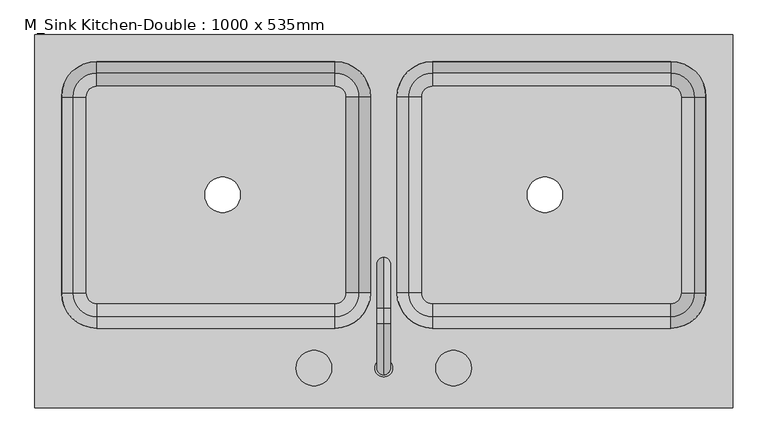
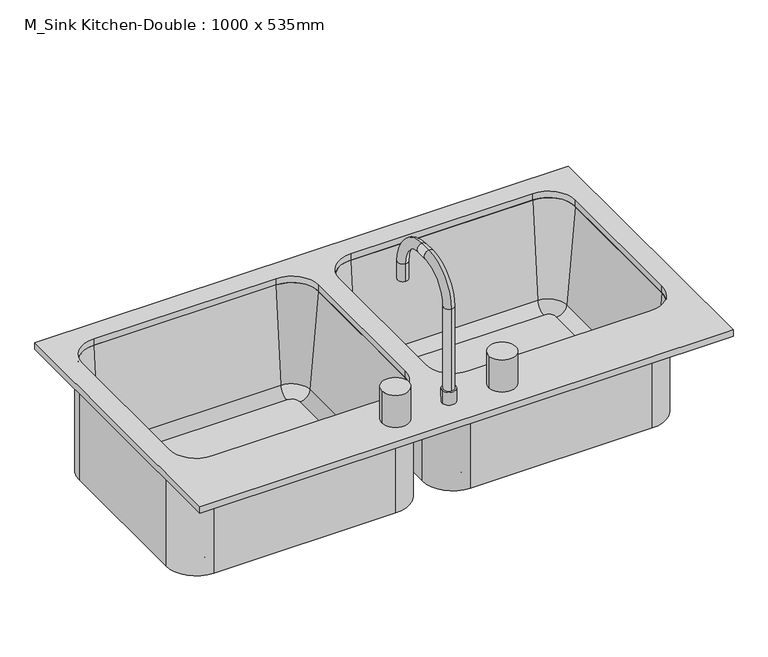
"""IFC4 building model written with IfcOpenShell, lengths in millimetres: flow terminal geometry, M_Sink Kitchen-Double : 1000 x 535mm."""

from ifc_helpers import new_model, si_unit, point, frame, frame_2d, origin, place, context, project, spatial, polyline, circle_curve, ellipse_curve, trimmed, segment, composite_curve, outline, extrude, source, transform, mapped, element, save
from ifc_brep_helpers import plane_surface, cylinder_surface, revolved_surface, advanced_brep


def m_sink_kitchen_double_1000_x_535mm_0441a45c(model_context):
    return source(origin(), model_context, "Body", "SolidModel", [
        advanced_brep(
        [(426.7892406, -120.0338193, 693.625), (442.0776588, -104.7454011, 693.625), (442.0776588, 176.2545989, 693.625), (426.7892406, 191.5430171, 693.625), (85.5392406, 191.5430171, 693.625), (70.2508224, 176.2545989, 693.625), (70.2508224, -104.7454011, 693.625), (85.5392406, -120.0338193, 693.625), (221.2392406, 35.7545989, 693.625), (272.0392406, 35.7545989, 693.625), (28.3892406, -104.7454011, 684.1), (28.3892406, 176.2545989, 684.1), (85.5392406, 233.4045989, 684.1), (426.7892406, 233.4045989, 684.1), (483.9392406, 176.2545989, 684.1), (483.9392406, -104.7454011, 684.1), (426.7892406, -161.8954011, 684.1), (85.5392406, -161.8954011, 684.1), (221.2392406, 35.7545989, 684.1), (272.0392406, 35.7545989, 684.1), (34.7392406, -104.7454011, 900.0), (28.3892406, -104.7454011, 900.0), (85.5392406, -161.8954011, 900.0), (85.5392406, -155.5454011, 900.0), (85.5392406, -139.0113283, 711.0146831), (51.2733134, -104.7454011, 711.0146831), (34.7392406, 176.2545989, 900.0), (28.3892406, 176.2545989, 900.0), (51.2733134, 176.2545989, 711.0146831), (85.5392406, 227.0545989, 900.0), (85.5392406, 233.4045989, 900.0), (85.5392406, 210.5205261, 711.0146831), (426.7892406, 227.0545989, 900.0), (426.7892406, 233.4045989, 900.0), (426.7892406, 210.5205261, 711.0146831), (477.5892406, 176.2545989, 900.0), (483.9392406, 176.2545989, 900.0), (461.0551678, 176.2545989, 711.0146831), (477.5892406, -104.7454011, 900.0), (483.9392406, -104.7454011, 900.0), (461.0551678, -104.7454011, 711.0146831), (426.7892406, -155.5454011, 900.0), (426.7892406, -161.8954011, 900.0), (426.7892406, -139.0113283, 711.0146831)],
        [
            (0, 1, circle_curve(frame((426.7892406, -104.7454011, 693.625), z_axis=(0.0, 0.0, 1.0), x_axis=(1.0, 0.0, 0.0)), 15.2884182)),
            (1, 2),
            (2, 3, circle_curve(frame((426.7892406, 176.2545989, 693.625), z_axis=(0.0, 0.0, 1.0), x_axis=(0.0, 1.0, 0.0)), 15.2884182)),
            (3, 4),
            (4, 5, circle_curve(frame((85.5392406, 176.2545989, 693.625), z_axis=(0.0, 0.0, 1.0), x_axis=(-1.0, 0.0, 0.0)), 15.2884182)),
            (5, 6),
            (6, 7, circle_curve(frame((85.5392406, -104.7454011, 693.625), z_axis=(0.0, 0.0, 1.0), x_axis=(0.0, -1.0, 0.0)), 15.2884182)),
            (7, 0),
            (8, 9, circle_curve(frame((246.6392406, 35.7545989, 693.625), z_axis=(0.0, 0.0, -1.0), x_axis=(1.0, 0.0, 0.0)), 25.4)),
            (9, 8, circle_curve(frame((246.6392406, 35.7545989, 693.625), z_axis=(0.0, 0.0, -1.0), x_axis=(1.0, 0.0, 0.0)), 25.4)),
            (10, 11),
            (11, 12, circle_curve(frame((85.5392406, 176.2545989, 684.1), z_axis=(0.0, 0.0, -1.0), x_axis=(-1.0, 0.0, 0.0)), 57.15)),
            (12, 13),
            (13, 14, circle_curve(frame((426.7892406, 176.2545989, 684.1), z_axis=(0.0, 0.0, -1.0), x_axis=(0.0, 1.0, 0.0)), 57.15)),
            (14, 15),
            (15, 16, circle_curve(frame((426.7892406, -104.7454011, 684.1), z_axis=(0.0, 0.0, -1.0), x_axis=(1.0, 0.0, 0.0)), 57.15)),
            (16, 17),
            (17, 10, circle_curve(frame((85.5392406, -104.7454011, 684.1), z_axis=(0.0, 0.0, -1.0), x_axis=(0.0, -1.0, 0.0)), 57.15)),
            (18, 19, circle_curve(frame((246.6392406, 35.7545989, 684.1), z_axis=(0.0, 0.0, 1.0), x_axis=(1.0, 0.0, 0.0)), 25.4)),
            (19, 18, circle_curve(frame((246.6392406, 35.7545989, 684.1), z_axis=(0.0, 0.0, 1.0), x_axis=(1.0, 0.0, 0.0)), 25.4)),
            (9, 19),
            (18, 8),
            (20, 21),
            (21, 22, circle_curve(frame((85.5392406, -104.7454011, 900.0), z_axis=(0.0, 0.0, 1.0), x_axis=(0.0, -1.0, 0.0)), 57.15)),
            (22, 23),
            (23, 20, circle_curve(frame((85.5392406, -104.7454011, 900.0), z_axis=(0.0, 0.0, -1.0), x_axis=(0.0, -1.0, 0.0)), 50.8)),
            (23, 24),
            (24, 25, circle_curve(frame((85.5392406, -104.7454011, 711.0146831), z_axis=(0.0, 0.0, -1.0), x_axis=(0.0, -1.0, 0.0)), 34.2659272)),
            (25, 20),
            (24, 7, circle_curve(frame((85.5392406, -120.0338193, 712.675), z_axis=(1.0, 0.0, 0.0), x_axis=(0.0, 1.0, 0.0)), 19.05)),
            (6, 25, circle_curve(frame((70.2508224, -104.7454011, 712.675), z_axis=(0.0, 1.0, 0.0), x_axis=(1.0, 0.0, 0.0)), 19.05)),
            (21, 10),
            (17, 22),
            (20, 26),
            (26, 27),
            (27, 21),
            (25, 28),
            (28, 26),
            (5, 28, circle_curve(frame((70.2508224, 176.2545989, 712.675), z_axis=(0.0, 1.0, 0.0), x_axis=(1.0, 0.0, 0.0)), 19.05)),
            (27, 11),
            (26, 29, circle_curve(frame((85.5392406, 176.2545989, 900.0), z_axis=(0.0, 0.0, -1.0), x_axis=(-1.0, 0.0, 0.0)), 50.8)),
            (29, 30),
            (30, 27, circle_curve(frame((85.5392406, 176.2545989, 900.0), z_axis=(0.0, 0.0, 1.0), x_axis=(-1.0, 0.0, 0.0)), 57.15)),
            (28, 31, circle_curve(frame((85.5392406, 176.2545989, 711.0146831), z_axis=(0.0, 0.0, -1.0), x_axis=(-1.0, 0.0, 0.0)), 34.2659272)),
            (31, 29),
            (4, 31, circle_curve(frame((85.5392406, 191.5430171, 712.675), z_axis=(1.0, 0.0, 0.0), x_axis=(0.0, -1.0, 0.0)), 19.05)),
            (30, 12),
            (29, 32),
            (32, 33),
            (33, 30),
            (31, 34),
            (34, 32),
            (3, 34, circle_curve(frame((426.7892406, 191.5430171, 712.675), z_axis=(1.0, 0.0, 0.0), x_axis=(0.0, -1.0, 0.0)), 19.05)),
            (33, 13),
            (32, 35, circle_curve(frame((426.7892406, 176.2545989, 900.0), z_axis=(0.0, 0.0, -1.0), x_axis=(0.0, 1.0, 0.0)), 50.8)),
            (35, 36),
            (36, 33, circle_curve(frame((426.7892406, 176.2545989, 900.0), z_axis=(0.0, 0.0, 1.0), x_axis=(0.0, 1.0, 0.0)), 57.15)),
            (34, 37, circle_curve(frame((426.7892406, 176.2545989, 711.0146831), z_axis=(0.0, 0.0, -1.0), x_axis=(0.0, 1.0, 0.0)), 34.2659272)),
            (37, 35),
            (2, 37, circle_curve(frame((442.0776588, 176.2545989, 712.675), z_axis=(0.0, -1.0, 0.0), x_axis=(-1.0, 0.0, 0.0)), 19.05)),
            (36, 14),
            (35, 38),
            (38, 39),
            (39, 36),
            (37, 40),
            (40, 38),
            (1, 40, circle_curve(frame((442.0776588, -104.7454011, 712.675), z_axis=(0.0, -1.0, 0.0), x_axis=(-1.0, 0.0, 0.0)), 19.05)),
            (39, 15),
            (38, 41, circle_curve(frame((426.7892406, -104.7454011, 900.0), z_axis=(0.0, 0.0, -1.0), x_axis=(1.0, 0.0, 0.0)), 50.8)),
            (41, 42),
            (42, 39, circle_curve(frame((426.7892406, -104.7454011, 900.0), z_axis=(0.0, 0.0, 1.0), x_axis=(1.0, 0.0, 0.0)), 57.15)),
            (40, 43, circle_curve(frame((426.7892406, -104.7454011, 711.0146831), z_axis=(0.0, 0.0, -1.0), x_axis=(1.0, 0.0, 0.0)), 34.2659272)),
            (43, 41),
            (0, 43, circle_curve(frame((426.7892406, -120.0338193, 712.675), z_axis=(-1.0, 0.0, 0.0), x_axis=(0.0, 1.0, 0.0)), 19.05)),
            (42, 16),
            (22, 42),
            (41, 23),
            (43, 24),
        ],
        [
            plane_surface(frame((85.5392406, -120.0338193, 693.625), z_axis=(0.0, 0.0, 1.0), x_axis=(-1.0, 0.0, 0.0))),
            plane_surface(frame((85.5392406, -120.0338193, 684.1), z_axis=(0.0, 0.0, -1.0), x_axis=(1.0, 0.0, 0.0))),
            revolved_surface(polyline([(272.03924059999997, 35.7545989, 684.1), (272.03924059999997, 35.7545989, 693.625)]), (246.6392406, 35.7545989, 0.0), (0.0, 0.0, -1.0)),
            plane_surface(frame((85.5392406, -104.7454011, 900.0), z_axis=(0.0, 0.0, 1.0), x_axis=(0.0, -1.0, 0.0))),
            revolved_surface(polyline([(85.5392406, -155.5454011, 900.0), (85.5392406, -139.0113283, 711.0146831)]), (85.5392406, -104.7454011, 0.0), (0.0, 0.0, 1.0)),
            revolved_surface(trimmed(ellipse_curve(frame((85.5392406, -120.0338193, 712.675), z_axis=(1.0, 0.0, 0.0), x_axis=(0.0, 1.0, 0.0)), 19.05, 19.05), [point((85.5392406, -139.0113283, 711.0146831))], [point((85.5392406, -120.0338193, 693.625))], True, "CARTESIAN"), (85.5392406, -104.7454011, 0.0), (0.0, 0.0, 1.0)),
            cylinder_surface(frame((85.5392406, -104.7454011, 0.0), z_axis=(0.0, 0.0, 1.0), x_axis=(0.0, -1.0, 0.0)), 57.15),
            plane_surface(frame((28.3892406, -104.7454011, 900.0), z_axis=(0.0, 0.0, 1.0), x_axis=(0.0, 1.0, 0.0))),
            plane_surface(frame((34.7392406, -104.7454011, 900.0), z_axis=(0.996194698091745, 0.0, 0.08715574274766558), x_axis=(0.0, 1.0, 0.0))),
            revolved_surface(polyline([(89.3008224, 176.25459890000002, 712.675), (89.3008224, -104.7454011, 712.675)]), (70.2508224, -104.7454011, 712.675), (0.0, 1.0, 0.0)),
            plane_surface(frame((28.3892406, -104.7454011, 684.1), z_axis=(-1.0, 0.0, 0.0), x_axis=(0.0, 1.0, 0.0))),
            plane_surface(frame((85.5392406, 176.2545989, 900.0), z_axis=(0.0, 0.0, 1.0), x_axis=(-1.0, 0.0, 0.0))),
            revolved_surface(polyline([(34.7392406, 176.2545989, 900.0), (51.2733134, 176.2545989, 711.0146831)]), (85.5392406, 176.2545989, 0.0), (0.0, 0.0, 1.0)),
            revolved_surface(trimmed(ellipse_curve(frame((70.2508224, 176.2545989, 712.675), z_axis=(0.0, -1.0, 0.0), x_axis=(1.0, 0.0, 0.0)), 19.05, 19.05), [point((51.2733134, 176.2545989, 711.0146831))], [point((70.2508224, 176.2545989, 693.625))], True, "CARTESIAN"), (85.5392406, 176.2545989, 0.0), (0.0, 0.0, 1.0)),
            cylinder_surface(frame((85.5392406, 176.2545989, 0.0), z_axis=(0.0, 0.0, 1.0), x_axis=(-1.0, 0.0, 0.0)), 57.15),
            plane_surface(frame((85.5392406, 233.4045989, 900.0), z_axis=(0.0, 0.0, 1.0), x_axis=(1.0, 0.0, 0.0))),
            plane_surface(frame((85.5392406, 227.0545989, 900.0), z_axis=(0.0, -0.996194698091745, 0.08715574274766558), x_axis=(1.0, 0.0, 0.0))),
            revolved_surface(polyline([(426.78924059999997, 172.49301709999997, 712.675), (85.5392406, 172.49301709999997, 712.675)]), (85.5392406, 191.5430171, 712.675), (1.0, 0.0, 0.0)),
            plane_surface(frame((85.5392406, 233.4045989, 684.1), z_axis=(0.0, 1.0, 0.0), x_axis=(1.0, 0.0, 0.0))),
            plane_surface(frame((426.7892406, 176.2545989, 900.0), z_axis=(0.0, 0.0, 1.0), x_axis=(0.0, 1.0, 0.0))),
            revolved_surface(polyline([(426.7892406, 227.0545989, 900.0), (426.7892406, 210.5205261, 711.0146831)]), (426.7892406, 176.2545989, 0.0), (0.0, 0.0, 1.0)),
            revolved_surface(trimmed(ellipse_curve(frame((426.7892406, 191.5430171, 712.675), z_axis=(-1.0, 0.0, 0.0), x_axis=(0.0, -1.0, 0.0)), 19.05, 19.05), [point((426.7892406, 210.5205261, 711.0146831))], [point((426.7892406, 191.5430171, 693.625))], True, "CARTESIAN"), (426.7892406, 176.2545989, 0.0), (0.0, 0.0, 1.0)),
            cylinder_surface(frame((426.7892406, 176.2545989, 0.0), z_axis=(0.0, 0.0, 1.0), x_axis=(0.0, 1.0, 0.0)), 57.15),
            plane_surface(frame((483.9392406, 176.2545989, 900.0), z_axis=(0.0, 0.0, 1.0), x_axis=(0.0, -1.0, 0.0))),
            plane_surface(frame((477.5892406, 176.2545989, 900.0), z_axis=(-0.996194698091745, 0.0, 0.08715574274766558), x_axis=(0.0, -1.0, 0.0))),
            revolved_surface(polyline([(423.0276588, -104.74540110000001, 712.675), (423.0276588, 176.2545989, 712.675)]), (442.0776588, 176.2545989, 712.675), (0.0, -1.0, 0.0)),
            plane_surface(frame((483.9392406, 176.2545989, 684.1), z_axis=(1.0, 0.0, 0.0), x_axis=(0.0, -1.0, 0.0))),
            plane_surface(frame((426.7892406, -104.7454011, 900.0), z_axis=(0.0, 0.0, 1.0), x_axis=(1.0, 0.0, 0.0))),
            revolved_surface(polyline([(477.5892406, -104.7454011, 900.0), (461.0551678, -104.7454011, 711.0146831)]), (426.7892406, -104.7454011, 0.0), (0.0, 0.0, 1.0)),
            revolved_surface(trimmed(ellipse_curve(frame((442.0776588, -104.7454011, 712.675), z_axis=(0.0, 1.0, 0.0), x_axis=(-1.0, 0.0, 0.0)), 19.05, 19.05), [point((461.0551678, -104.7454011, 711.0146831))], [point((442.0776588, -104.7454011, 693.625))], True, "CARTESIAN"), (426.7892406, -104.7454011, 0.0), (0.0, 0.0, 1.0)),
            cylinder_surface(frame((426.7892406, -104.7454011, 0.0), z_axis=(0.0, 0.0, 1.0), x_axis=(1.0, 0.0, 0.0)), 57.15),
            plane_surface(frame((426.7892406, -161.8954011, 900.0), z_axis=(0.0, 0.0, 1.0), x_axis=(-1.0, 0.0, 0.0))),
            plane_surface(frame((426.7892406, -155.5454011, 900.0), z_axis=(0.0, 0.996194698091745, 0.08715574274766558), x_axis=(-1.0, 0.0, 0.0))),
            revolved_surface(polyline([(85.53924060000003, -100.98381930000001, 712.675), (426.7892406, -100.98381930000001, 712.675)]), (426.7892406, -120.0338193, 712.675), (-1.0, 0.0, 0.0)),
            plane_surface(frame((426.7892406, -161.8954011, 684.1), z_axis=(0.0, -1.0, 0.0), x_axis=(-1.0, 0.0, 0.0))),
        ],
        [
            (0, [[1, 2, 3, 4, 5, 6, 7, 8], [9, 10]]),
            (1, [[11, 12, 13, 14, 15, 16, 17, 18], [19, 20]]),
            (2, [[21, -19, 22, -10]]),
            (2, [[-22, -20, -21, -9]]),
            (3, [[23, 24, 25, 26]]),
            (4, [[27, 28, 29, -26]]),
            (5, [[30, -7, 31, -28]]),
            (6, [[32, -18, 33, -24]]),
            (7, [[34, 35, 36, -23]]),
            (8, [[37, 38, -34, -29]]),
            (9, [[-6, 39, -37, -31]]),
            (10, [[-36, 40, -11, -32]]),
            (11, [[41, 42, 43, -35]]),
            (12, [[44, 45, -41, -38]]),
            (13, [[-5, 46, -44, -39]]),
            (14, [[-43, 47, -12, -40]]),
            (15, [[48, 49, 50, -42]]),
            (16, [[51, 52, -48, -45]]),
            (17, [[-4, 53, -51, -46]]),
            (18, [[-50, 54, -13, -47]]),
            (19, [[55, 56, 57, -49]]),
            (20, [[58, 59, -55, -52]]),
            (21, [[-3, 60, -58, -53]]),
            (22, [[-57, 61, -14, -54]]),
            (23, [[62, 63, 64, -56]]),
            (24, [[65, 66, -62, -59]]),
            (25, [[-2, 67, -65, -60]]),
            (26, [[-64, 68, -15, -61]]),
            (27, [[69, 70, 71, -63]]),
            (28, [[72, 73, -69, -66]]),
            (29, [[-1, 74, -72, -67]]),
            (30, [[-71, 75, -16, -68]]),
            (31, [[76, -70, 77, -25]]),
            (32, [[-77, -73, 78, -27]]),
            (33, [[-78, -74, -8, -30]]),
            (34, [[-17, -75, -76, -33]]),
        ],
    ),
        advanced_brep(
        [(-38.8723412, -104.7454011, 693.625), (-38.8723412, 176.2545989, 693.625), (-54.1607594, 191.5430171, 693.625), (-395.4107594, 191.5430171, 693.625), (-410.6991776, 176.2545989, 693.625), (-410.6991776, -104.7454011, 693.625), (-395.4107594, -120.0338193, 693.625), (-54.1607594, -120.0338193, 693.625), (-240.6607594, 35.7545989, 693.625), (-189.8607594, 35.7545989, 693.625), (-452.5607594, -104.7454011, 684.1), (-452.5607594, 176.2545989, 684.1), (-395.4107594, 233.4045989, 684.1), (-54.1607594, 233.4045989, 684.1), (2.9892406, 176.2545989, 684.1), (2.9892406, -104.7454011, 684.1), (-54.1607594, -161.8954011, 684.1), (-395.4107594, -161.8954011, 684.1), (-240.6607594, 35.7545989, 684.1), (-189.8607594, 35.7545989, 684.1), (2.9892406, -104.7454011, 900.0), (-54.1607594, -161.8954011, 900.0), (-54.1607594, -139.0113283, 711.0146831), (-19.8948322, -104.7454011, 711.0146831), (-54.1607594, -155.5454011, 900.0), (-3.3607594, -104.7454011, 900.0), (2.9892406, 176.2545989, 900.0), (-19.8948322, 176.2545989, 711.0146831), (-3.3607594, 176.2545989, 900.0), (-54.1607594, 233.4045989, 900.0), (-54.1607594, 210.5205261, 711.0146831), (-54.1607594, 227.0545989, 900.0), (-395.4107594, 233.4045989, 900.0), (-395.4107594, 210.5205261, 711.0146831), (-395.4107594, 227.0545989, 900.0), (-452.5607594, 176.2545989, 900.0), (-429.6766866, 176.2545989, 711.0146831), (-446.2107594, 176.2545989, 900.0), (-452.5607594, -104.7454011, 900.0), (-429.6766866, -104.7454011, 711.0146831), (-446.2107594, -104.7454011, 900.0), (-395.4107594, -161.8954011, 900.0), (-395.4107594, -139.0113283, 711.0146831), (-395.4107594, -155.5454011, 900.0)],
        [
            (0, 1),
            (1, 2, circle_curve(frame((-54.1607594, 176.2545989, 693.625), z_axis=(0.0, 0.0, 1.0), x_axis=(1.0, 0.0, 0.0)), 15.2884182)),
            (2, 3),
            (3, 4, circle_curve(frame((-395.4107594, 176.2545989, 693.625), z_axis=(0.0, 0.0, 1.0), x_axis=(0.0, 1.0, 0.0)), 15.2884182)),
            (4, 5),
            (5, 6, circle_curve(frame((-395.4107594, -104.7454011, 693.625), z_axis=(0.0, 0.0, 1.0), x_axis=(-1.0, 0.0, 0.0)), 15.2884182)),
            (6, 7),
            (7, 0, circle_curve(frame((-54.1607594, -104.7454011, 693.625), z_axis=(0.0, 0.0, 1.0), x_axis=(0.0, -1.0, 0.0)), 15.2884182)),
            (8, 9, circle_curve(frame((-215.2607594, 35.7545989, 693.625), z_axis=(0.0, 0.0, -1.0), x_axis=(1.0, 0.0, 0.0)), 25.4)),
            (9, 8, circle_curve(frame((-215.2607594, 35.7545989, 693.625), z_axis=(0.0, 0.0, -1.0), x_axis=(1.0, 0.0, 0.0)), 25.4)),
            (10, 11),
            (11, 12, circle_curve(frame((-395.4107594, 176.2545989, 684.1), z_axis=(0.0, 0.0, -1.0), x_axis=(0.0, 1.0, 0.0)), 57.15)),
            (12, 13),
            (13, 14, circle_curve(frame((-54.1607594, 176.2545989, 684.1), z_axis=(0.0, 0.0, -1.0), x_axis=(1.0, 0.0, 0.0)), 57.15)),
            (14, 15),
            (15, 16, circle_curve(frame((-54.1607594, -104.7454011, 684.1), z_axis=(0.0, 0.0, -1.0), x_axis=(0.0, -1.0, 0.0)), 57.15)),
            (16, 17),
            (17, 10, circle_curve(frame((-395.4107594, -104.7454011, 684.1), z_axis=(0.0, 0.0, -1.0), x_axis=(-1.0, 0.0, 0.0)), 57.15)),
            (18, 19, circle_curve(frame((-215.2607594, 35.7545989, 684.1), z_axis=(0.0, 0.0, 1.0), x_axis=(1.0, 0.0, 0.0)), 25.4)),
            (19, 18, circle_curve(frame((-215.2607594, 35.7545989, 684.1), z_axis=(0.0, 0.0, 1.0), x_axis=(1.0, 0.0, 0.0)), 25.4)),
            (9, 19),
            (18, 8),
            (15, 20),
            (20, 21, circle_curve(frame((-54.1607594, -104.7454011, 900.0), z_axis=(0.0, 0.0, -1.0), x_axis=(0.0, -1.0, 0.0)), 57.15)),
            (21, 16),
            (7, 22, circle_curve(frame((-54.1607594, -120.0338193, 712.675), z_axis=(-1.0, 0.0, 0.0), x_axis=(0.0, -1.0, 0.0)), 19.05)),
            (22, 23, circle_curve(frame((-54.1607594, -104.7454011, 711.0146831), z_axis=(0.0, 0.0, 1.0), x_axis=(0.0, -1.0, 0.0)), 34.2659272)),
            (23, 0, circle_curve(frame((-38.8723412, -104.7454011, 712.675), z_axis=(0.0, 1.0, 0.0), x_axis=(1.0, 0.0, 0.0)), 19.05)),
            (22, 24),
            (24, 25, circle_curve(frame((-54.1607594, -104.7454011, 900.0), z_axis=(0.0, 0.0, 1.0), x_axis=(0.0, -1.0, 0.0)), 50.8)),
            (25, 23),
            (20, 25),
            (24, 21),
            (14, 26),
            (26, 20),
            (23, 27),
            (27, 1, circle_curve(frame((-38.8723412, 176.2545989, 712.675), z_axis=(0.0, 1.0, 0.0), x_axis=(1.0, 0.0, 0.0)), 19.05)),
            (25, 28),
            (28, 27),
            (26, 28),
            (13, 29),
            (29, 26, circle_curve(frame((-54.1607594, 176.2545989, 900.0), z_axis=(0.0, 0.0, -1.0), x_axis=(1.0, 0.0, 0.0)), 57.15)),
            (27, 30, circle_curve(frame((-54.1607594, 176.2545989, 711.0146831), z_axis=(0.0, 0.0, 1.0), x_axis=(1.0, 0.0, 0.0)), 34.2659272)),
            (30, 2, circle_curve(frame((-54.1607594, 191.5430171, 712.675), z_axis=(-1.0, 0.0, 0.0), x_axis=(0.0, 1.0, 0.0)), 19.05)),
            (28, 31, circle_curve(frame((-54.1607594, 176.2545989, 900.0), z_axis=(0.0, 0.0, 1.0), x_axis=(1.0, 0.0, 0.0)), 50.8)),
            (31, 30),
            (29, 31),
            (12, 32),
            (32, 29),
            (30, 33),
            (33, 3, circle_curve(frame((-395.4107594, 191.5430171, 712.675), z_axis=(-1.0, 0.0, 0.0), x_axis=(0.0, 1.0, 0.0)), 19.05)),
            (31, 34),
            (34, 33),
            (32, 34),
            (11, 35),
            (35, 32, circle_curve(frame((-395.4107594, 176.2545989, 900.0), z_axis=(0.0, 0.0, -1.0), x_axis=(0.0, 1.0, 0.0)), 57.15)),
            (33, 36, circle_curve(frame((-395.4107594, 176.2545989, 711.0146831), z_axis=(0.0, 0.0, 1.0), x_axis=(0.0, 1.0, 0.0)), 34.2659272)),
            (36, 4, circle_curve(frame((-410.6991776, 176.2545989, 712.675), z_axis=(0.0, -1.0, 0.0), x_axis=(-1.0, 0.0, 0.0)), 19.05)),
            (34, 37, circle_curve(frame((-395.4107594, 176.2545989, 900.0), z_axis=(0.0, 0.0, 1.0), x_axis=(0.0, 1.0, 0.0)), 50.8)),
            (37, 36),
            (35, 37),
            (10, 38),
            (38, 35),
            (36, 39),
            (39, 5, circle_curve(frame((-410.6991776, -104.7454011, 712.675), z_axis=(0.0, -1.0, 0.0), x_axis=(-1.0, 0.0, 0.0)), 19.05)),
            (37, 40),
            (40, 39),
            (38, 40),
            (17, 41),
            (41, 38, circle_curve(frame((-395.4107594, -104.7454011, 900.0), z_axis=(0.0, 0.0, -1.0), x_axis=(-1.0, 0.0, 0.0)), 57.15)),
            (39, 42, circle_curve(frame((-395.4107594, -104.7454011, 711.0146831), z_axis=(0.0, 0.0, 1.0), x_axis=(-1.0, 0.0, 0.0)), 34.2659272)),
            (42, 6, circle_curve(frame((-395.4107594, -120.0338193, 712.675), z_axis=(1.0, 0.0, 0.0), x_axis=(0.0, -1.0, 0.0)), 19.05)),
            (40, 43, circle_curve(frame((-395.4107594, -104.7454011, 900.0), z_axis=(0.0, 0.0, 1.0), x_axis=(-1.0, 0.0, 0.0)), 50.8)),
            (43, 42),
            (41, 43),
            (21, 41),
            (42, 22),
            (43, 24),
        ],
        [
            plane_surface(frame((-395.4107594, -117.4454011, 693.625), z_axis=(0.0, 0.0, 1.0), x_axis=(-1.0, 0.0, 0.0))),
            plane_surface(frame((-395.4107594, -117.4454011, 684.1), z_axis=(0.0, 0.0, -1.0), x_axis=(1.0, 0.0, 0.0))),
            revolved_surface(polyline([(-189.8607594, 35.7545989, 684.1), (-189.8607594, 35.7545989, 693.625)]), (-215.2607594, 35.7545989, 0.0), (0.0, 0.0, -1.0)),
            cylinder_surface(frame((-54.1607594, -104.7454011, 0.0), z_axis=(0.0, 0.0, -1.0), x_axis=(0.0, -1.0, 0.0)), 57.15),
            revolved_surface(trimmed(ellipse_curve(frame((-54.1607594, -120.0338193, 712.675), z_axis=(-1.0, 0.0, 0.0), x_axis=(0.0, -1.0, 0.0)), 19.05, 19.05), [point((-54.1607594, -120.0338193, 693.625))], [point((-54.1607594, -139.0113283, 711.0146831))], True, "CARTESIAN"), (-54.1607594, -104.7454011, 0.0), (0.0, 0.0, -1.0)),
            revolved_surface(polyline([(-54.1607594, -139.0113283, 711.0146831), (-54.1607594, -155.5454011, 900.0)]), (-54.1607594, -104.7454011, 0.0), (0.0, 0.0, -1.0)),
            plane_surface(frame((-54.1607594, -104.7454011, 900.0), z_axis=(0.0, 0.0, 1.0), x_axis=(0.0, -1.0, 0.0))),
            plane_surface(frame((2.9892406, -104.7454011, 900.0), z_axis=(1.0, 0.0, 0.0), x_axis=(0.0, 1.0, 0.0))),
            revolved_surface(polyline([(-19.8223412, 176.25459890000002, 712.675), (-19.8223412, -104.7454011, 712.675)]), (-38.8723412, -104.7454011, 712.675), (0.0, 1.0, 0.0)),
            plane_surface(frame((-19.8948322, -104.7454011, 711.0146831), z_axis=(-0.9961946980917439, 0.0, 0.08715574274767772), x_axis=(0.0, 1.0, 0.0))),
            plane_surface(frame((-3.3607594, -104.7454011, 900.0), z_axis=(0.0, 0.0, 1.0), x_axis=(0.0, 1.0, 0.0))),
            cylinder_surface(frame((-54.1607594, 176.2545989, 0.0), z_axis=(0.0, 0.0, -1.0), x_axis=(1.0, 0.0, 0.0)), 57.15),
            revolved_surface(trimmed(ellipse_curve(frame((-38.8723412, 176.2545989, 712.675), z_axis=(0.0, -1.0, 0.0), x_axis=(1.0, 0.0, 0.0)), 19.05, 19.05), [point((-38.8723412, 176.2545989, 693.625))], [point((-19.8948322, 176.2545989, 711.0146831))], True, "CARTESIAN"), (-54.1607594, 176.2545989, 0.0), (0.0, 0.0, -1.0)),
            revolved_surface(polyline([(-19.8948322, 176.2545989, 711.0146831), (-3.3607594, 176.2545989, 900.0)]), (-54.1607594, 176.2545989, 0.0), (0.0, 0.0, -1.0)),
            plane_surface(frame((-54.1607594, 176.2545989, 900.0), z_axis=(0.0, 0.0, 1.0), x_axis=(1.0, 0.0, 0.0))),
            plane_surface(frame((-54.1607594, 233.4045989, 900.0), z_axis=(0.0, 1.0, 0.0), x_axis=(-1.0, 0.0, 0.0))),
            revolved_surface(polyline([(-395.4107594, 210.5930171, 712.675), (-54.1607594, 210.5930171, 712.675)]), (-54.1607594, 191.5430171, 712.675), (-1.0, 0.0, 0.0)),
            plane_surface(frame((-54.1607594, 210.5205261, 711.0146831), z_axis=(0.0, -0.9961946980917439, 0.08715574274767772), x_axis=(-1.0, 0.0, 0.0))),
            plane_surface(frame((-54.1607594, 227.0545989, 900.0), z_axis=(0.0, 0.0, 1.0), x_axis=(-1.0, 0.0, 0.0))),
            cylinder_surface(frame((-395.4107594, 176.2545989, 0.0), z_axis=(0.0, 0.0, -1.0), x_axis=(0.0, 1.0, 0.0)), 57.15),
            revolved_surface(trimmed(ellipse_curve(frame((-395.4107594, 191.5430171, 712.675), z_axis=(1.0, 0.0, 0.0), x_axis=(0.0, 1.0, 0.0)), 19.05, 19.05), [point((-395.4107594, 191.5430171, 693.625))], [point((-395.4107594, 210.5205261, 711.0146831))], True, "CARTESIAN"), (-395.4107594, 176.2545989, 0.0), (0.0, 0.0, -1.0)),
            revolved_surface(polyline([(-395.4107594, 210.5205261, 711.0146831), (-395.4107594, 227.0545989, 900.0)]), (-395.4107594, 176.2545989, 0.0), (0.0, 0.0, -1.0)),
            plane_surface(frame((-395.4107594, 176.2545989, 900.0), z_axis=(0.0, 0.0, 1.0), x_axis=(0.0, 1.0, 0.0))),
            plane_surface(frame((-452.5607594, 176.2545989, 900.0), z_axis=(-1.0, 0.0, 0.0), x_axis=(0.0, -1.0, 0.0))),
            revolved_surface(polyline([(-429.7491776, -104.74540110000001, 712.675), (-429.7491776, 176.2545989, 712.675)]), (-410.6991776, 176.2545989, 712.675), (0.0, -1.0, 0.0)),
            plane_surface(frame((-429.6766866, 176.2545989, 711.0146831), z_axis=(0.9961946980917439, 0.0, 0.08715574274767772), x_axis=(0.0, -1.0, 0.0))),
            plane_surface(frame((-446.2107594, 176.2545989, 900.0), z_axis=(0.0, 0.0, 1.0), x_axis=(0.0, -1.0, 0.0))),
            cylinder_surface(frame((-395.4107594, -104.7454011, 0.0), z_axis=(0.0, 0.0, -1.0), x_axis=(-1.0, 0.0, 0.0)), 57.15),
            revolved_surface(trimmed(ellipse_curve(frame((-410.6991776, -104.7454011, 712.675), z_axis=(0.0, 1.0, 0.0), x_axis=(-1.0, 0.0, 0.0)), 19.05, 19.05), [point((-410.6991776, -104.7454011, 693.625))], [point((-429.6766866, -104.7454011, 711.0146831))], True, "CARTESIAN"), (-395.4107594, -104.7454011, 0.0), (0.0, 0.0, -1.0)),
            revolved_surface(polyline([(-429.6766866, -104.7454011, 711.0146831), (-446.2107594, -104.7454011, 900.0)]), (-395.4107594, -104.7454011, 0.0), (0.0, 0.0, -1.0)),
            plane_surface(frame((-395.4107594, -104.7454011, 900.0), z_axis=(0.0, 0.0, 1.0), x_axis=(-1.0, 0.0, 0.0))),
            plane_surface(frame((-395.4107594, -161.8954011, 900.0), z_axis=(0.0, -1.0, 0.0), x_axis=(1.0, 0.0, 0.0))),
            revolved_surface(polyline([(-54.16075940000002, -139.08381930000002, 712.675), (-395.4107594, -139.08381930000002, 712.675)]), (-395.4107594, -120.0338193, 712.675), (1.0, 0.0, 0.0)),
            plane_surface(frame((-395.4107594, -139.0113283, 711.0146831), z_axis=(0.0, 0.9961946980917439, 0.08715574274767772), x_axis=(1.0, 0.0, 0.0))),
            plane_surface(frame((-395.4107594, -155.5454011, 900.0), z_axis=(0.0, 0.0, 1.0), x_axis=(1.0, 0.0, 0.0))),
        ],
        [
            (0, [[1, 2, 3, 4, 5, 6, 7, 8], [9, 10]]),
            (1, [[11, 12, 13, 14, 15, 16, 17, 18], [19, 20]]),
            (2, [[21, -19, 22, -10]]),
            (2, [[-22, -20, -21, -9]]),
            (3, [[23, 24, 25, -16]]),
            (4, [[26, 27, 28, -8]]),
            (5, [[29, 30, 31, -27]]),
            (6, [[32, -30, 33, -24]]),
            (7, [[-15, 34, 35, -23]]),
            (8, [[36, 37, -1, -28]]),
            (9, [[38, 39, -36, -31]]),
            (10, [[-35, 40, -38, -32]]),
            (11, [[-14, 41, 42, -34]]),
            (12, [[43, 44, -2, -37]]),
            (13, [[45, 46, -43, -39]]),
            (14, [[-42, 47, -45, -40]]),
            (15, [[-13, 48, 49, -41]]),
            (16, [[50, 51, -3, -44]]),
            (17, [[52, 53, -50, -46]]),
            (18, [[-49, 54, -52, -47]]),
            (19, [[-12, 55, 56, -48]]),
            (20, [[57, 58, -4, -51]]),
            (21, [[59, 60, -57, -53]]),
            (22, [[-56, 61, -59, -54]]),
            (23, [[-11, 62, 63, -55]]),
            (24, [[64, 65, -5, -58]]),
            (25, [[66, 67, -64, -60]]),
            (26, [[-63, 68, -66, -61]]),
            (27, [[-18, 69, 70, -62]]),
            (28, [[71, 72, -6, -65]]),
            (29, [[73, 74, -71, -67]]),
            (30, [[-70, 75, -73, -68]]),
            (31, [[76, -69, -17, -25]]),
            (32, [[-7, -72, 77, -26]]),
            (33, [[-77, -74, 78, -29]]),
            (34, [[-78, -75, -76, -33]]),
        ],
    ),
        advanced_brep(
        [(2.9892406, -212.6954011, 912.7), (28.3892406, -212.6954011, 912.7), (15.6892406, -222.2204011, 1100.025), (15.6892406, -222.2204011, 938.1), (15.6892406, -203.1704011, 938.1), (15.6892406, -203.1704011, 1100.025), (15.6892406, -149.1954011, 1154.0), (15.6892406, -149.1954011, 1173.05), (15.6892406, -126.9704011, 1154.0), (15.6892406, -126.9704011, 1173.05), (15.6892406, -72.9954011, 1100.025), (15.6892406, -53.9454011, 1100.025), (15.6892406, -53.9454011, 1065.1), (15.6892406, -72.9954011, 1065.1), (2.9892406, -212.6954011, 938.1), (28.3892406, -212.6954011, 938.1)],
        [
            (0, 1, circle_curve(frame((15.6892406, -212.6954011, 912.7), z_axis=(0.0, 0.0, -1.0), x_axis=(1.0, 0.0, 0.0)), 12.7)),
            (1, 0, circle_curve(frame((15.6892406, -212.6954011, 912.7), z_axis=(0.0, 0.0, -1.0), x_axis=(1.0, 0.0, 0.0)), 12.7)),
            (2, 3),
            (3, 4, circle_curve(frame((15.6892406, -212.6954011, 938.1), z_axis=(0.0, 0.0, 1.0), x_axis=(0.0, 1.0, 0.0)), 9.525)),
            (4, 5),
            (5, 2, circle_curve(frame((15.6892406, -212.6954011, 1100.025), z_axis=(0.0, 0.0, -1.0), x_axis=(0.0, 1.0, 0.0)), 9.525)),
            (4, 3, circle_curve(frame((15.6892406, -212.6954011, 938.1), z_axis=(0.0, 0.0, 1.0), x_axis=(0.0, 1.0, 0.0)), 9.525)),
            (2, 5, circle_curve(frame((15.6892406, -212.6954011, 1100.025), z_axis=(0.0, 0.0, -1.0), x_axis=(0.0, 1.0, 0.0)), 9.525)),
            (5, 6, circle_curve(frame((15.6892406, -149.1954011, 1100.025), z_axis=(-1.0, 0.0, 0.0), x_axis=(0.0, -1.0, 0.0)), 53.975)),
            (6, 7, circle_curve(frame((15.6892406, -149.1954011, 1163.525), z_axis=(0.0, -1.0, 0.0), x_axis=(0.0, 0.0, -1.0)), 9.525)),
            (7, 2, circle_curve(frame((15.6892406, -149.1954011, 1100.025), z_axis=(1.0, 0.0, 0.0), x_axis=(0.0, -1.0, 0.0)), 73.025)),
            (7, 6, circle_curve(frame((15.6892406, -149.1954011, 1163.525), z_axis=(0.0, -1.0, 0.0), x_axis=(0.0, 0.0, -1.0)), 9.525)),
            (6, 8),
            (8, 9, circle_curve(frame((15.6892406, -126.9704011, 1163.525), z_axis=(0.0, -1.0, 0.0), x_axis=(0.0, 0.0, -1.0)), 9.525)),
            (9, 7),
            (9, 8, circle_curve(frame((15.6892406, -126.9704011, 1163.525), z_axis=(0.0, -1.0, 0.0), x_axis=(0.0, 0.0, -1.0)), 9.525)),
            (8, 10, circle_curve(frame((15.6892406, -126.9704011, 1100.025), z_axis=(-1.0, 0.0, 0.0), x_axis=(0.0, 0.0, 1.0)), 53.975)),
            (10, 11, circle_curve(frame((15.6892406, -63.4704011, 1100.025), z_axis=(0.0, 0.0, 1.0), x_axis=(0.0, -1.0, 0.0)), 9.525)),
            (11, 9, circle_curve(frame((15.6892406, -126.9704011, 1100.025), z_axis=(1.0, 0.0, 0.0), x_axis=(0.0, 0.0, 1.0)), 73.025)),
            (11, 10, circle_curve(frame((15.6892406, -63.4704011, 1100.025), z_axis=(0.0, 0.0, 1.0), x_axis=(0.0, -1.0, 0.0)), 9.525)),
            (12, 13, circle_curve(frame((15.6892406, -63.4704011, 1065.1), z_axis=(0.0, 0.0, -1.0), x_axis=(0.0, -1.0, 0.0)), 9.525)),
            (13, 12, circle_curve(frame((15.6892406, -63.4704011, 1065.1), z_axis=(0.0, 0.0, -1.0), x_axis=(0.0, -1.0, 0.0)), 9.525)),
            (10, 13),
            (12, 11),
            (14, 15, circle_curve(frame((15.6892406, -212.6954011, 938.1), z_axis=(0.0, 0.0, 1.0), x_axis=(1.0, 0.0, 0.0)), 12.7)),
            (15, 14, circle_curve(frame((15.6892406, -212.6954011, 938.1), z_axis=(0.0, 0.0, 1.0), x_axis=(1.0, 0.0, 0.0)), 12.7)),
            (15, 1),
            (0, 14),
        ],
        [
            plane_surface(frame((15.6892406, -203.1704011, 912.7), z_axis=(0.0, 0.0, -1.0), x_axis=(1.0, 0.0, 0.0))),
            cylinder_surface(frame((15.6892406, -212.6954011, 912.7), z_axis=(0.0, 0.0, -1.0), x_axis=(0.0, 1.0, 0.0)), 9.525),
            revolved_surface(trimmed(ellipse_curve(frame((15.6892406, -212.6954011, 1100.025), z_axis=(0.0, 0.0, 1.0), x_axis=(0.0, 1.0, 0.0)), 9.525, 9.525), [point((15.6892406, -222.2204011, 1100.025))], [point((15.6892406, -203.1704011, 1100.025))], True, "CARTESIAN"), (15.6892406, -149.1954011, 1100.025), (1.0, 0.0, 0.0)),
            revolved_surface(trimmed(ellipse_curve(frame((15.6892406, -212.6954011, 1100.025), z_axis=(0.0, 0.0, 1.0), x_axis=(0.0, 1.0, 0.0)), 9.525, 9.525), [point((15.6892406, -203.1704011, 1100.025))], [point((15.6892406, -222.2204011, 1100.025))], True, "CARTESIAN"), (15.6892406, -149.1954011, 1100.025), (1.0, 0.0, 0.0)),
            cylinder_surface(frame((15.6892406, -149.1954011, 1163.525), z_axis=(0.0, -1.0, 0.0), x_axis=(0.0, 0.0, -1.0)), 9.525),
            revolved_surface(trimmed(ellipse_curve(frame((15.6892406, -126.9704011, 1163.525), z_axis=(0.0, 1.0, 0.0), x_axis=(0.0, 0.0, -1.0)), 9.525, 9.525), [point((15.6892406, -126.9704011, 1173.05))], [point((15.6892406, -126.9704011, 1154.0))], True, "CARTESIAN"), (15.6892406, -126.9704011, 1100.025), (1.0, 0.0, 0.0)),
            revolved_surface(trimmed(ellipse_curve(frame((15.6892406, -126.9704011, 1163.525), z_axis=(0.0, 1.0, 0.0), x_axis=(0.0, 0.0, -1.0)), 9.525, 9.525), [point((15.6892406, -126.9704011, 1154.0))], [point((15.6892406, -126.9704011, 1173.05))], True, "CARTESIAN"), (15.6892406, -126.9704011, 1100.025), (1.0, 0.0, 0.0)),
            plane_surface(frame((15.6892406, -53.9454011, 1065.1), z_axis=(0.0, 0.0, -1.0), x_axis=(-1.0, 0.0, 0.0))),
            cylinder_surface(frame((15.6892406, -63.4704011, 1100.025), z_axis=(0.0, 0.0, 1.0), x_axis=(0.0, -1.0, 0.0)), 9.525),
            plane_surface(frame((28.3892406, -212.6954011, 938.1), z_axis=(0.0, 0.0, 1.0), x_axis=(0.0, -1.0, 0.0))),
            cylinder_surface(frame((15.6892406, -212.6954011, 912.7), z_axis=(0.0, 0.0, 1.0), x_axis=(1.0, 0.0, 0.0)), 12.7),
        ],
        [
            (0, [[1, 2]]),
            (1, [[3, 4, 5, 6]]),
            (1, [[-5, 7, -3, 8]]),
            (2, [[9, 10, 11, -6]]),
            (3, [[-11, 12, -9, -8]]),
            (4, [[13, 14, 15, -10]]),
            (4, [[-15, 16, -13, -12]]),
            (5, [[17, 18, 19, -14]]),
            (6, [[-19, 20, -17, -16]]),
            (7, [[21, 22]]),
            (8, [[23, -21, 24, -18]]),
            (8, [[-24, -22, -23, -20]]),
            (9, [[25, 26], [-7, -4]]),
            (10, [[27, -1, 28, -26]]),
            (10, [[-28, -2, -27, -25]]),
        ],
    ),
        extrude(outline(composite_curve([segment(trimmed(circle_curve(frame_2d((-84.3107594, -212.6954011)), 25.4), [point((-109.7107594, -212.6954011))], [point((-58.9107594, -212.6954011))], False, "CARTESIAN"), True, "CONTINUOUS"), segment(trimmed(circle_curve(frame_2d((-84.3107594, -212.6954011)), 25.4), [point((-58.9107594, -212.6954011))], [point((-109.7107594, -212.6954011))], False, "CARTESIAN"), True, "CONTINUOUS")], self_intersect=False)), frame((0.0, 0.0, 912.7), z_axis=(0.0, 0.0, 1.0), x_axis=(1.0, 0.0, 0.0)), (0.0, 0.0, 1.0), 63.5),
        extrude(outline(composite_curve([segment(trimmed(circle_curve(frame_2d((115.6892406, -212.6954011)), 25.4), [point((90.2892406, -212.6954011))], [point((141.0892406, -212.6954011))], False, "CARTESIAN"), True, "CONTINUOUS"), segment(trimmed(circle_curve(frame_2d((115.6892406, -212.6954011)), 25.4), [point((141.0892406, -212.6954011))], [point((90.2892406, -212.6954011))], False, "CARTESIAN"), True, "CONTINUOUS")], self_intersect=False)), frame((0.0, 0.0, 912.7), z_axis=(0.0, 0.0, 1.0), x_axis=(1.0, 0.0, 0.0)), (0.0, 0.0, 1.0), 63.5),
        extrude(outline(polyline([(515.6892406, -269.8454011), (-484.3107594, -269.8454011), (-484.3107594, 265.1545989), (515.6892406, 265.1545989), (515.6892406, -269.8454011)]), holes=[composite_curve([segment(trimmed(circle_curve(frame_2d((-54.1607594, -104.7454011)), 50.8), [point((-54.1607594, -155.5454011))], [point((-3.3607594, -104.7454011))], True, "CARTESIAN"), True, "CONTINUOUS"), segment(polyline([(-3.3607594, -104.7454011), (-3.3607594, 176.2545989)]), True, "CONTINUOUS"), segment(trimmed(circle_curve(frame_2d((-54.1607594, 176.2545989)), 50.8), [point((-3.3607594, 176.2545989))], [point((-54.1607594, 227.0545989))], True, "CARTESIAN"), True, "CONTINUOUS"), segment(polyline([(-54.1607594, 227.0545989), (-395.4107594, 227.0545989)]), True, "CONTINUOUS"), segment(trimmed(circle_curve(frame_2d((-395.4107594, 176.2545989)), 50.8), [point((-395.4107594, 227.0545989))], [point((-446.2107594, 176.2545989))], True, "CARTESIAN"), True, "CONTINUOUS"), segment(polyline([(-446.2107594, 176.2545989), (-446.2107594, -104.7454011)]), True, "CONTINUOUS"), segment(trimmed(circle_curve(frame_2d((-395.4107594, -104.7454011)), 50.8), [point((-446.2107594, -104.7454011))], [point((-395.4107594, -155.5454011))], True, "CARTESIAN"), True, "CONTINUOUS"), segment(polyline([(-395.4107594, -155.5454011), (-54.1607594, -155.5454011)]), True, "CONTINUOUS")], self_intersect=False), composite_curve([segment(trimmed(circle_curve(frame_2d((85.5392406, 176.2545989)), 50.8), [point((85.5392406, 227.0545989))], [point((34.7392406, 176.2545989))], True, "CARTESIAN"), True, "CONTINUOUS"), segment(polyline([(34.7392406, 176.2545989), (34.7392406, -104.7454011)]), True, "CONTINUOUS"), segment(trimmed(circle_curve(frame_2d((85.5392406, -104.7454011)), 50.8), [point((34.7392406, -104.7454011))], [point((85.5392406, -155.5454011))], True, "CARTESIAN"), True, "CONTINUOUS"), segment(polyline([(85.5392406, -155.5454011), (426.7892406, -155.5454011)]), True, "CONTINUOUS"), segment(trimmed(circle_curve(frame_2d((426.7892406, -104.7454011)), 50.8), [point((426.7892406, -155.5454011))], [point((477.5892406, -104.7454011))], True, "CARTESIAN"), True, "CONTINUOUS"), segment(polyline([(477.5892406, -104.7454011), (477.5892406, 176.2545989)]), True, "CONTINUOUS"), segment(trimmed(circle_curve(frame_2d((426.7892406, 176.2545989)), 50.8), [point((477.5892406, 176.2545989))], [point((426.7892406, 227.0545989))], True, "CARTESIAN"), True, "CONTINUOUS"), segment(polyline([(426.7892406, 227.0545989), (85.5392406, 227.0545989)]), True, "CONTINUOUS")], self_intersect=False)]), frame((0.0, 0.0, 900.0), z_axis=(0.0, 0.0, 1.0), x_axis=(1.0, 0.0, 0.0)), (0.0, 0.0, 1.0), 12.7),
    ])


if __name__ == "__main__":
    model = new_model("IFC4")
    model_context = context("Model", 3, world=origin())
    ifc_project = project(units=[si_unit("LENGTHUNIT", "METRE", prefix="MILLI")], contexts=[model_context])
    site = spatial("IfcSite", under=ifc_project)
    building = spatial("IfcBuilding", under=site)
    placement = place(None, origin())
    m_sink_kitchen_double_1000_x_535mm_shape = m_sink_kitchen_double_1000_x_535mm_0441a45c(model_context)
    element("IfcFlowTerminal", 1, ObjectType="M_Sink Kitchen-Double : 1000 x 535mm", at=placement, inside=building, context=model_context, shape_type="MappedRepresentation", body=[
        mapped(m_sink_kitchen_double_1000_x_535mm_shape, transform((0.0, 0.0, 0.0), x_axis=(1.0, 0.0, 0.0), y_axis=(0.0, 1.0, 0.0), z_axis=(0.0, 0.0, 1.0))),
    ])
    save(model, "model.ifc")
